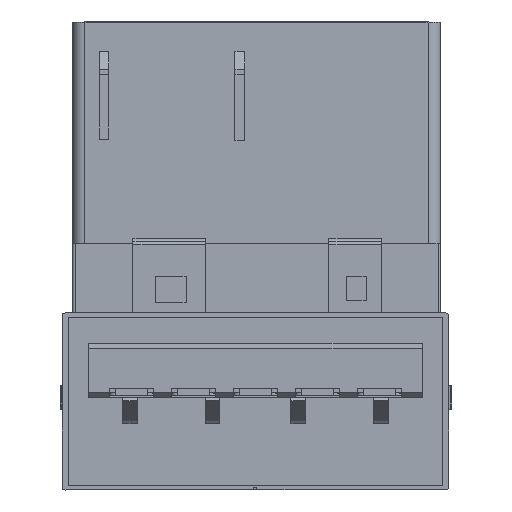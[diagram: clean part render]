
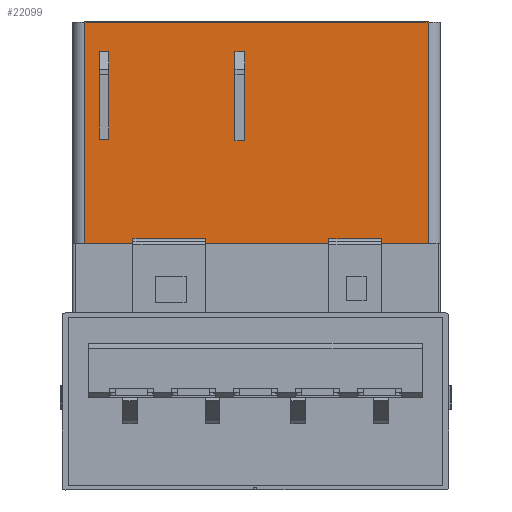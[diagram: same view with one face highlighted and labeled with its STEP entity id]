
A CAD part, front view. The second image highlights one B-rep face of the part: STEP entity #22099.
In plain terms, the highlighted planar face has unit normal (0, -1, 0) as drawn and (0, 0, -1) by its records, which use the part's own axes.
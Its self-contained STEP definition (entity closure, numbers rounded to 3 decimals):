
#21922 = EDGE_CURVE('',#21923,#21925,#21927,.T.);
#21923 = VERTEX_POINT('',#21924);
#21924 = CARTESIAN_POINT('',(-4.763,4.8,-2.306));
#21925 = VERTEX_POINT('',#21926);
#21926 = CARTESIAN_POINT('',(-8.937,4.8,-2.306));
#21927 = LINE('',#21928,#21929);
#21928 = CARTESIAN_POINT('',(-12.732,4.8,-2.306));
#21929 = VECTOR('',#21930,1.);
#21930 = DIRECTION('',(-1.,0.,0.));
#22006 = VERTEX_POINT('',#22007);
#22007 = CARTESIAN_POINT('',(-2.294,4.8,-2.306));
#22013 = EDGE_CURVE('',#22014,#22006,#22016,.T.);
#22014 = VERTEX_POINT('',#22015);
#22015 = CARTESIAN_POINT('',(-0.647,4.8,-2.306));
#22016 = LINE('',#22017,#22018);
#22017 = CARTESIAN_POINT('',(-12.732,4.8,-2.306));
#22018 = VECTOR('',#22019,1.);
#22019 = DIRECTION('',(-1.,0.,0.));
#22099 = ADVANCED_FACE('',(#22100,#22150,#22200),#22280,.F.);
#22100 = FACE_BOUND('',#22101,.T.);
#22101 = EDGE_LOOP('',(#22102,#22112,#22120,#22128,#22136,#22144));
#22102 = ORIENTED_EDGE('',*,*,#22103,.F.);
#22103 = EDGE_CURVE('',#22104,#22106,#22108,.T.);
#22104 = VERTEX_POINT('',#22105);
#22105 = CARTESIAN_POINT('',(-1.161,11.298,
    -2.306));
#22106 = VERTEX_POINT('',#22107);
#22107 = CARTESIAN_POINT('',(-1.161,10.526,
    -2.306));
#22108 = LINE('',#22109,#22110);
#22109 = CARTESIAN_POINT('',(-1.161,11.398,
    -2.306));
#22110 = VECTOR('',#22111,1.);
#22111 = DIRECTION('',(0.,-1.,0.));
#22112 = ORIENTED_EDGE('',*,*,#22113,.T.);
#22113 = EDGE_CURVE('',#22104,#22114,#22116,.T.);
#22114 = VERTEX_POINT('',#22115);
#22115 = CARTESIAN_POINT('',(-1.476,11.298,
    -2.306));
#22116 = LINE('',#22117,#22118);
#22117 = CARTESIAN_POINT('',(-12.732,11.298,
    -2.306));
#22118 = VECTOR('',#22119,1.);
#22119 = DIRECTION('',(-1.,0.,0.));
#22120 = ORIENTED_EDGE('',*,*,#22121,.F.);
#22121 = EDGE_CURVE('',#22122,#22114,#22124,.T.);
#22122 = VERTEX_POINT('',#22123);
#22123 = CARTESIAN_POINT('',(-1.476,10.526,
    -2.306));
#22124 = LINE('',#22125,#22126);
#22125 = CARTESIAN_POINT('',(-1.476,11.398,
    -2.306));
#22126 = VECTOR('',#22127,1.);
#22127 = DIRECTION('',(0.,1.,0.));
#22128 = ORIENTED_EDGE('',*,*,#22129,.F.);
#22129 = EDGE_CURVE('',#22130,#22122,#22132,.T.);
#22130 = VERTEX_POINT('',#22131);
#22131 = CARTESIAN_POINT('',(-1.476,8.33,
    -2.306));
#22132 = LINE('',#22133,#22134);
#22133 = CARTESIAN_POINT('',(-1.476,11.398,
    -2.306));
#22134 = VECTOR('',#22135,1.);
#22135 = DIRECTION('',(0.,1.,0.));
#22136 = ORIENTED_EDGE('',*,*,#22137,.F.);
#22137 = EDGE_CURVE('',#22138,#22130,#22140,.T.);
#22138 = VERTEX_POINT('',#22139);
#22139 = CARTESIAN_POINT('',(-1.161,8.33,
    -2.306));
#22140 = LINE('',#22141,#22142);
#22141 = CARTESIAN_POINT('',(-1.161,8.33,
    -2.306));
#22142 = VECTOR('',#22143,1.);
#22143 = DIRECTION('',(-1.,0.,0.));
#22144 = ORIENTED_EDGE('',*,*,#22145,.T.);
#22145 = EDGE_CURVE('',#22138,#22106,#22146,.T.);
#22146 = LINE('',#22147,#22148);
#22147 = CARTESIAN_POINT('',(-1.161,12.3,-2.306));
#22148 = VECTOR('',#22149,1.);
#22149 = DIRECTION('',(0.,1.,0.));
#22150 = FACE_BOUND('',#22151,.T.);
#22151 = EDGE_LOOP('',(#22152,#22162,#22170,#22178,#22186,#22194));
#22152 = ORIENTED_EDGE('',*,*,#22153,.F.);
#22153 = EDGE_CURVE('',#22154,#22156,#22158,.T.);
#22154 = VERTEX_POINT('',#22155);
#22155 = CARTESIAN_POINT('',(-5.748,11.298,
    -2.306));
#22156 = VERTEX_POINT('',#22157);
#22157 = CARTESIAN_POINT('',(-5.748,10.526,
    -2.306));
#22158 = LINE('',#22159,#22160);
#22159 = CARTESIAN_POINT('',(-5.748,11.398,
    -2.306));
#22160 = VECTOR('',#22161,1.);
#22161 = DIRECTION('',(0.,-1.,0.));
#22162 = ORIENTED_EDGE('',*,*,#22163,.T.);
#22163 = EDGE_CURVE('',#22154,#22164,#22166,.T.);
#22164 = VERTEX_POINT('',#22165);
#22165 = CARTESIAN_POINT('',(-6.079,11.298,
    -2.306));
#22166 = LINE('',#22167,#22168);
#22167 = CARTESIAN_POINT('',(-12.732,11.298,
    -2.306));
#22168 = VECTOR('',#22169,1.);
#22169 = DIRECTION('',(-1.,0.,0.));
#22170 = ORIENTED_EDGE('',*,*,#22171,.F.);
#22171 = EDGE_CURVE('',#22172,#22164,#22174,.T.);
#22172 = VERTEX_POINT('',#22173);
#22173 = CARTESIAN_POINT('',(-6.079,10.526,
    -2.306));
#22174 = LINE('',#22175,#22176);
#22175 = CARTESIAN_POINT('',(-6.079,11.398,
    -2.306));
#22176 = VECTOR('',#22177,1.);
#22177 = DIRECTION('',(0.,1.,0.));
#22178 = ORIENTED_EDGE('',*,*,#22179,.F.);
#22179 = EDGE_CURVE('',#22180,#22172,#22182,.T.);
#22180 = VERTEX_POINT('',#22181);
#22181 = CARTESIAN_POINT('',(-6.079,8.27,
    -2.306));
#22182 = LINE('',#22183,#22184);
#22183 = CARTESIAN_POINT('',(-6.079,11.398,
    -2.306));
#22184 = VECTOR('',#22185,1.);
#22185 = DIRECTION('',(0.,1.,0.));
#22186 = ORIENTED_EDGE('',*,*,#22187,.F.);
#22187 = EDGE_CURVE('',#22188,#22180,#22190,.T.);
#22188 = VERTEX_POINT('',#22189);
#22189 = CARTESIAN_POINT('',(-5.748,8.27,
    -2.306));
#22190 = LINE('',#22191,#22192);
#22191 = CARTESIAN_POINT('',(-5.748,8.27,
    -2.306));
#22192 = VECTOR('',#22193,1.);
#22193 = DIRECTION('',(-1.,0.,0.));
#22194 = ORIENTED_EDGE('',*,*,#22195,.T.);
#22195 = EDGE_CURVE('',#22188,#22156,#22196,.T.);
#22196 = LINE('',#22197,#22198);
#22197 = CARTESIAN_POINT('',(-5.748,12.3,-2.306));
#22198 = VECTOR('',#22199,1.);
#22199 = DIRECTION('',(0.,1.,0.));
#22200 = FACE_BOUND('',#22201,.T.);
#22201 = EDGE_LOOP('',(#22202,#22210,#22218,#22226,#22234,#22242,#22250,
    #22256,#22257,#22265,#22273,#22279));
#22202 = ORIENTED_EDGE('',*,*,#22203,.F.);
#22203 = EDGE_CURVE('',#22204,#21925,#22206,.T.);
#22204 = VERTEX_POINT('',#22205);
#22205 = CARTESIAN_POINT('',(-8.937,4.95,-2.306));
#22206 = LINE('',#22207,#22208);
#22207 = CARTESIAN_POINT('',(-8.937,4.85,-2.306));
#22208 = VECTOR('',#22209,1.);
#22209 = DIRECTION('',(0.,-1.,0.));
#22210 = ORIENTED_EDGE('',*,*,#22211,.T.);
#22211 = EDGE_CURVE('',#22204,#22212,#22214,.T.);
#22212 = VERTEX_POINT('',#22213);
#22213 = CARTESIAN_POINT('',(-10.705,4.95,-2.306));
#22214 = LINE('',#22215,#22216);
#22215 = CARTESIAN_POINT('',(-12.732,4.95,-2.306));
#22216 = VECTOR('',#22217,1.);
#22217 = DIRECTION('',(-1.,0.,0.));
#22218 = ORIENTED_EDGE('',*,*,#22219,.T.);
#22219 = EDGE_CURVE('',#22212,#22220,#22222,.T.);
#22220 = VERTEX_POINT('',#22221);
#22221 = CARTESIAN_POINT('',(-10.705,4.8,-2.306));
#22222 = LINE('',#22223,#22224);
#22223 = CARTESIAN_POINT('',(-10.705,4.85,-2.306));
#22224 = VECTOR('',#22225,1.);
#22225 = DIRECTION('',(0.,-1.,0.));
#22226 = ORIENTED_EDGE('',*,*,#22227,.T.);
#22227 = EDGE_CURVE('',#22220,#22228,#22230,.T.);
#22228 = VERTEX_POINT('',#22229);
#22229 = CARTESIAN_POINT('',(-12.322,4.8,-2.306));
#22230 = LINE('',#22231,#22232);
#22231 = CARTESIAN_POINT('',(-12.732,4.8,-2.306));
#22232 = VECTOR('',#22233,1.);
#22233 = DIRECTION('',(-1.,0.,0.));
#22234 = ORIENTED_EDGE('',*,*,#22235,.T.);
#22235 = EDGE_CURVE('',#22228,#22236,#22238,.T.);
#22236 = VERTEX_POINT('',#22237);
#22237 = CARTESIAN_POINT('',(-12.322,12.3,-2.306));
#22238 = LINE('',#22239,#22240);
#22239 = CARTESIAN_POINT('',(-12.322,12.3,-2.306));
#22240 = VECTOR('',#22241,1.);
#22241 = DIRECTION('',(0.,1.,0.));
#22242 = ORIENTED_EDGE('',*,*,#22243,.F.);
#22243 = EDGE_CURVE('',#22244,#22236,#22246,.T.);
#22244 = VERTEX_POINT('',#22245);
#22245 = CARTESIAN_POINT('',(-0.647,12.3,-2.306));
#22246 = LINE('',#22247,#22248);
#22247 = CARTESIAN_POINT('',(-12.732,12.3,-2.306));
#22248 = VECTOR('',#22249,1.);
#22249 = DIRECTION('',(-1.,0.,0.));
#22250 = ORIENTED_EDGE('',*,*,#22251,.T.);
#22251 = EDGE_CURVE('',#22244,#22014,#22252,.T.);
#22252 = LINE('',#22253,#22254);
#22253 = CARTESIAN_POINT('',(-0.647,4.8,-2.306));
#22254 = VECTOR('',#22255,1.);
#22255 = DIRECTION('',(0.,-1.,0.));
#22256 = ORIENTED_EDGE('',*,*,#22013,.T.);
#22257 = ORIENTED_EDGE('',*,*,#22258,.F.);
#22258 = EDGE_CURVE('',#22259,#22006,#22261,.T.);
#22259 = VERTEX_POINT('',#22260);
#22260 = CARTESIAN_POINT('',(-2.294,4.95,-2.306));
#22261 = LINE('',#22262,#22263);
#22262 = CARTESIAN_POINT('',(-2.294,4.85,-2.306));
#22263 = VECTOR('',#22264,1.);
#22264 = DIRECTION('',(0.,-1.,0.));
#22265 = ORIENTED_EDGE('',*,*,#22266,.T.);
#22266 = EDGE_CURVE('',#22259,#22267,#22269,.T.);
#22267 = VERTEX_POINT('',#22268);
#22268 = CARTESIAN_POINT('',(-4.763,4.95,-2.306));
#22269 = LINE('',#22270,#22271);
#22270 = CARTESIAN_POINT('',(-12.732,4.95,-2.306));
#22271 = VECTOR('',#22272,1.);
#22272 = DIRECTION('',(-1.,0.,0.));
#22273 = ORIENTED_EDGE('',*,*,#22274,.T.);
#22274 = EDGE_CURVE('',#22267,#21923,#22275,.T.);
#22275 = LINE('',#22276,#22277);
#22276 = CARTESIAN_POINT('',(-4.763,4.85,-2.306));
#22277 = VECTOR('',#22278,1.);
#22278 = DIRECTION('',(0.,-1.,0.));
#22279 = ORIENTED_EDGE('',*,*,#21922,.T.);
#22280 = PLANE('',#22281);
#22281 = AXIS2_PLACEMENT_3D('',#22282,#22283,#22284);
#22282 = CARTESIAN_POINT('',(-12.732,12.3,-2.306));
#22283 = DIRECTION('',(0.,0.,1.));
#22284 = DIRECTION('',(1.,0.,0.));
